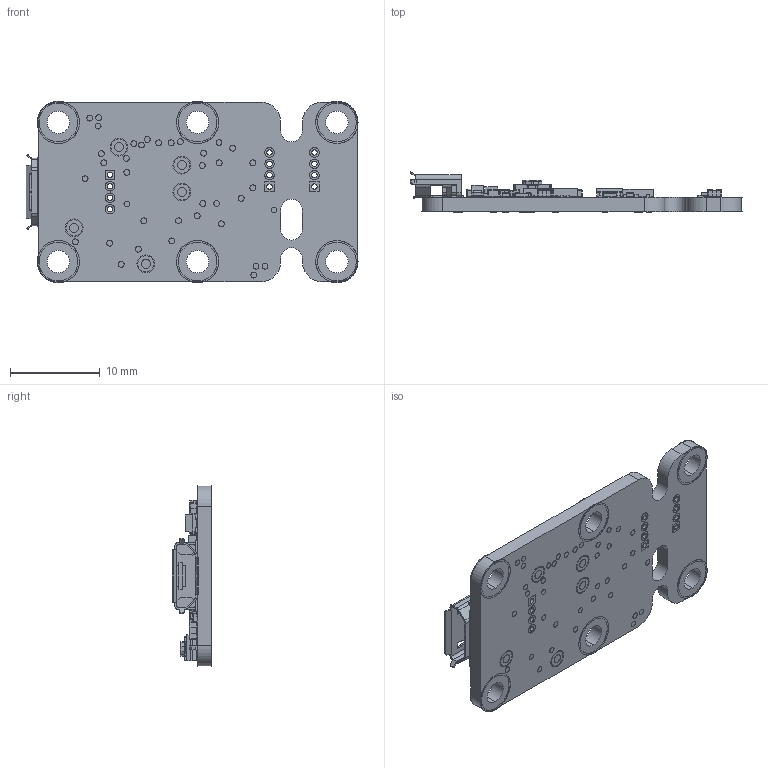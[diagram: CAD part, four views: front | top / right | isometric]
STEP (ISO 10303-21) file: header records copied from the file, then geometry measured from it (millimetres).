
FILE_DESCRIPTION (( 'STEP AP214' ), '1' );
FILE_NAME ('LIGHTMK2.STEP', '2014-07-08T06:05:09', ( 'martinm' ), ( '' ), 'SwSTEP 2.0', 'SolidWorks 2008', '' );
FILE_SCHEMA (( 'AUTOMOTIVE_DESIGN' ));
Length unit declared in the file: millimetre
Products named in the file (26): PCB_Défaut; C2; C9; C10; C16; C18; C19; FLASH1; PVSS_Défaut; R1; R2; R3; R4; R5; R8; R11; R12; REG1; SW1; T1; U1; USB1; YLED; sens1; sensor1_Défaut; LIGHTMK2
Assembly tree (31 placements, depth 2):
  PVSS_Défaut
  LIGHTMK2
    R4
    R11
    REG1
    C10
    FLASH1
    YLED
    C2
    R3
    SW1
    R8  x3
    USB1
    C16
    U1
    PCB_Défaut
    R1
    R12
    sens1
    C9  x6
    T1
    sensor1_Défaut
    R2
    R5
    C19
    C18
Bounding box: 36.95 x 4.45 x 20.2 mm (x, y, z)
Volume: 1169 mm3; surface area: 2364.7 mm2
Topology: 45 solids, 45 shells, 4456 faces, 11419 edges, 7384 vertices
Faces by surface type: plane 2848, cylinder 1030, bspline 483, sphere 88, torus 7
Entity records: 186295 total; most frequent: CARTESIAN_POINT 49025, ORIENTED_EDGE 20912, DIRECTION 18705, EDGE_CURVE 10456, LINE 7611, VECTOR 7611, VERTEX_POINT 6864, AXIS2_PLACEMENT_3D 5547
